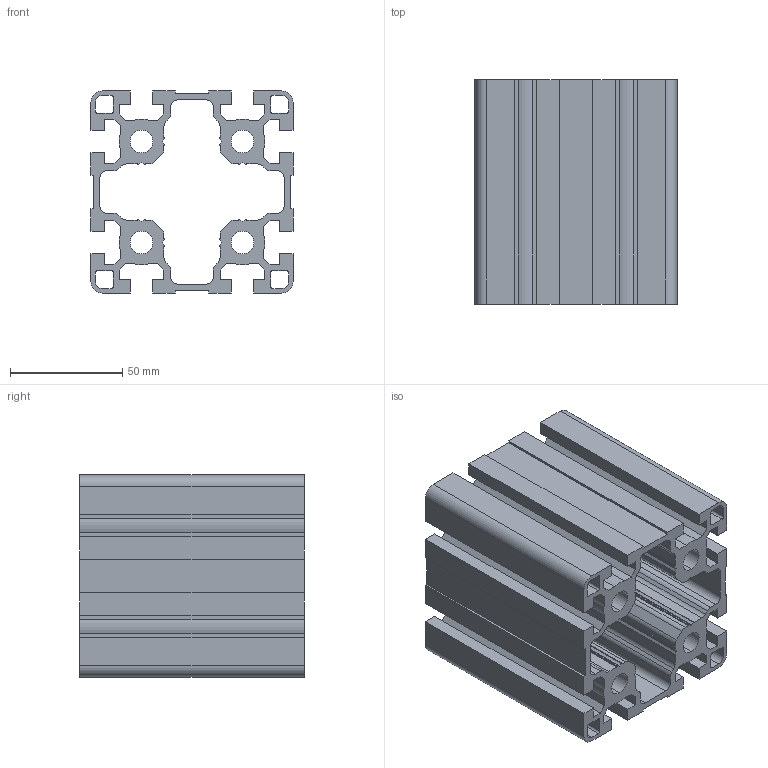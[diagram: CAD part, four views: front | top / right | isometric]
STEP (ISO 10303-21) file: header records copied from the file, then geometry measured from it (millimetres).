
FILE_DESCRIPTION (( 'STEP AP203' ), '1' );
FILE_NAME ('0110P9090L.STEP', '2024-03-01T12:06:26', ( 'Windows-Benutzer' ), ( '' ), 'SwSTEP 2.0', 'SolidWorks 2023', '' );
FILE_SCHEMA (( 'CONFIG_CONTROL_DESIGN' ));
Length unit declared in the file: millimetre
Products named in the file (1): 0110P9090L
Bounding box: 90 x 100 x 90 mm (x, y, z)
Volume: 263804.5 mm3; surface area: 129185.2 mm2
Topology: 1 solids, 1 shells, 314 faces, 936 edges, 624 vertices
Faces by surface type: plane 198, cylinder 116
Entity records: 10665 total; most frequent: CARTESIAN_POINT 1875, ORIENTED_EDGE 1872, DIRECTION 1798, EDGE_CURVE 936, LINE 704, VECTOR 704, VERTEX_POINT 624, AXIS2_PLACEMENT_3D 547
